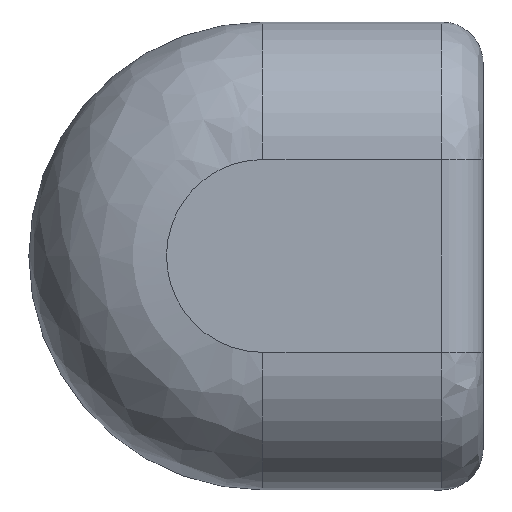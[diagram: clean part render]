
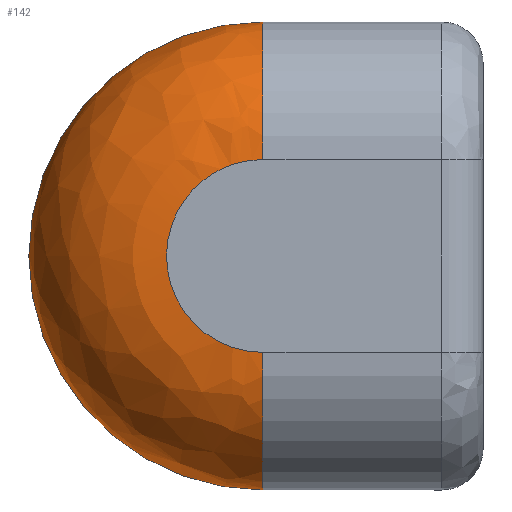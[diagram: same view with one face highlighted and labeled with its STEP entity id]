
A CAD part, left-side view. The second image highlights one B-rep face of the part: STEP entity #142.
In plain terms, the highlighted free-form (B-spline) face has degree [3, 3] with [4, 4] control points.
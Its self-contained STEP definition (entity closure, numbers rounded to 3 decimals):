
#19 = CIRCLE ( 'NONE', #583, 5. ) ;
#55 = ORIENTED_EDGE ( 'NONE', *, *, #1041, .T. ) ;
#86 = CIRCLE ( 'NONE', #1061, 8.5 ) ;
#142 = ADVANCED_FACE ( 'NONE', ( #1195 ), #369, .T. ) ;
#144 = CARTESIAN_POINT ( 'NONE',  ( -8.5, 7., -3.5 ) ) ;
#177 = DIRECTION ( 'NONE',  ( 0., -1., 0. ) ) ;
#243 = EDGE_CURVE ( 'NONE', #1133, #1390, #19, .T. ) ;
#246 = CARTESIAN_POINT ( 'NONE',  ( -6.429, 0., 8.5 ) ) ;
#263 =( BOUNDED_CURVE ( )  B_SPLINE_CURVE ( 3, ( #675, #899, #915, #499 ),
 .UNSPECIFIED., .F., .T. ) 
 B_SPLINE_CURVE_WITH_KNOTS ( ( 4, 4 ),
 ( 0., 1. ),
 .UNSPECIFIED. ) 
 CURVE ( )  GEOMETRIC_REPRESENTATION_ITEM ( )  RATIONAL_B_SPLINE_CURVE ( ( 1., 0.333, 0.333, 1. ) ) 
 REPRESENTATION_ITEM ( '' )  );
#287 = VERTEX_POINT ( 'NONE', #1127 ) ;
#322 = DIRECTION ( 'NONE',  ( 0., 0., 1. ) ) ;
#369 =( BOUNDED_SURFACE ( )  B_SPLINE_SURFACE ( 3, 3, ( 
 ( #1013, #1362, #144, #1352 ),
 ( #380, #603, #902, #597 ),
 ( #246, #590, #808, #804 ),
 ( #907, #497, #1152, #1256 ) ),
 .UNSPECIFIED., .F., .F., .F. ) 
 B_SPLINE_SURFACE_WITH_KNOTS ( ( 4, 4 ),
 ( 4, 4 ),
 ( 0., 1. ),
 ( 0., 1. ),
 .UNSPECIFIED. ) 
 GEOMETRIC_REPRESENTATION_ITEM ( )  RATIONAL_B_SPLINE_SURFACE ( (
 ( 1., 0.333, 0.333, 1.),
 ( 0.805, 0.268, 0.268, 0.805),
 ( 0.805, 0.268, 0.268, 0.805),
 ( 1., 0.333, 0.333, 1.) ) ) 
 REPRESENTATION_ITEM ( '' )  SURFACE ( )  );
#378 = CARTESIAN_POINT ( 'NONE',  ( -8.5, 0., -3.5 ) ) ;
#380 = CARTESIAN_POINT ( 'NONE',  ( -8.5, 0., 6.429 ) ) ;
#408 = DIRECTION ( 'NONE',  ( 0., -1., 0. ) ) ;
#434 = CARTESIAN_POINT ( 'NONE',  ( -3.5, 0., 0. ) ) ;
#497 = CARTESIAN_POINT ( 'NONE',  ( -3.5, 17., 8.5 ) ) ;
#499 = CARTESIAN_POINT ( 'NONE',  ( -8.5, 0., 3.5 ) ) ;
#538 = DIRECTION ( 'NONE',  ( -1., 0., 0. ) ) ;
#547 = VERTEX_POINT ( 'NONE', #1377 ) ;
#583 = AXIS2_PLACEMENT_3D ( 'NONE', #679, #408, #1174 ) ;
#590 = CARTESIAN_POINT ( 'NONE',  ( -6.429, 17., 8.5 ) ) ;
#597 = CARTESIAN_POINT ( 'NONE',  ( -8.5, 0., -6.429 ) ) ;
#603 = CARTESIAN_POINT ( 'NONE',  ( -8.5, 12.858, 6.429 ) ) ;
#641 = ORIENTED_EDGE ( 'NONE', *, *, #789, .F. ) ;
#655 = ORIENTED_EDGE ( 'NONE', *, *, #243, .F. ) ;
#675 = CARTESIAN_POINT ( 'NONE',  ( -8.5, 0., -3.5 ) ) ;
#679 = CARTESIAN_POINT ( 'NONE',  ( -3.5, 0., -3.5 ) ) ;
#789 = EDGE_CURVE ( 'NONE', #547, #287, #1020, .T. ) ;
#804 = CARTESIAN_POINT ( 'NONE',  ( -6.429, 0., -8.5 ) ) ;
#808 = CARTESIAN_POINT ( 'NONE',  ( -6.429, 17., -8.5 ) ) ;
#899 = CARTESIAN_POINT ( 'NONE',  ( -8.5, 7., -3.5 ) ) ;
#902 = CARTESIAN_POINT ( 'NONE',  ( -8.5, 12.858, -6.429 ) ) ;
#907 = CARTESIAN_POINT ( 'NONE',  ( -3.5, 0., 8.5 ) ) ;
#915 = CARTESIAN_POINT ( 'NONE',  ( -8.5, 7., 3.5 ) ) ;
#985 = EDGE_LOOP ( 'NONE', ( #55, #655, #1115, #641 ) ) ;
#1013 = CARTESIAN_POINT ( 'NONE',  ( -8.5, 0., 3.5 ) ) ;
#1020 = CIRCLE ( 'NONE', #1312, 5. ) ;
#1041 = EDGE_CURVE ( 'NONE', #547, #1390, #86, .T. ) ;
#1061 = AXIS2_PLACEMENT_3D ( 'NONE', #434, #538, #322 ) ;
#1085 = EDGE_CURVE ( 'NONE', #1133, #287, #263, .T. ) ;
#1115 = ORIENTED_EDGE ( 'NONE', *, *, #1085, .T. ) ;
#1127 = CARTESIAN_POINT ( 'NONE',  ( -8.5, 0., 3.5 ) ) ;
#1133 = VERTEX_POINT ( 'NONE', #378 ) ;
#1152 = CARTESIAN_POINT ( 'NONE',  ( -3.5, 17., -8.5 ) ) ;
#1163 = CARTESIAN_POINT ( 'NONE',  ( -3.5, 0., 3.5 ) ) ;
#1174 = DIRECTION ( 'NONE',  ( 0., 0., 1. ) ) ;
#1195 = FACE_OUTER_BOUND ( 'NONE', #985, .T. ) ;
#1256 = CARTESIAN_POINT ( 'NONE',  ( -3.5, 0., -8.5 ) ) ;
#1272 = CARTESIAN_POINT ( 'NONE',  ( -3.5, 0., -8.5 ) ) ;
#1291 = DIRECTION ( 'NONE',  ( 0., 0., 1. ) ) ;
#1312 = AXIS2_PLACEMENT_3D ( 'NONE', #1163, #177, #1291 ) ;
#1352 = CARTESIAN_POINT ( 'NONE',  ( -8.5, 0., -3.5 ) ) ;
#1362 = CARTESIAN_POINT ( 'NONE',  ( -8.5, 7., 3.5 ) ) ;
#1377 = CARTESIAN_POINT ( 'NONE',  ( -3.5, 0., 8.5 ) ) ;
#1390 = VERTEX_POINT ( 'NONE', #1272 ) ;
